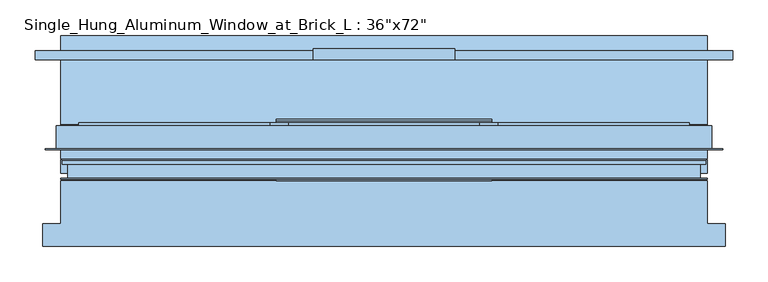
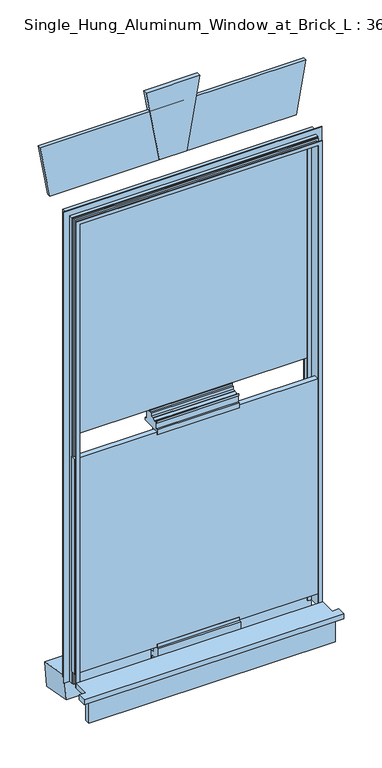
"""IFC4 building model written with IfcOpenShell, lengths in millimetres: window geometry."""

from ifc_helpers import new_model, si_unit, frame, origin, place, context, project, spatial, polyline, outline, extrude, faceted_brep, source, transform, mapped, element, save


def window_32c76565(model_context):
    return source(origin(), model_context, "Body", "SolidModel", [
        extrude(outline(polyline([(1079.5, -17.1661667), (1079.5, -288.1418333), (1491.5841185, -288.1418333), (1491.5841185, -313.5418333), (1079.5, -313.5418333), (1079.5, -584.5175), (1054.1, -584.5175), (1054.1, -313.5418333), (669.0294355, -313.5418333), (669.0294355, -288.1418333), (1054.1, -288.1418333), (1054.1, -17.1661667), (669.0294355, -17.1661667), (669.0294355, 8.2338333), (1054.1, 8.2338333), (1054.1, 279.2095), (1079.5, 279.2095), (1079.5, 8.2338333), (1491.5841185, 8.2338333), (1491.5841185, -17.1661667), (1079.5, -17.1661667)])), frame((0.0, -25.2095, 0.0), z_axis=(0.0, 1.0, 0.0), x_axis=(0.0, 0.0, 1.0)), (0.0, 0.0, 1.0), 6.35),
        extrude(outline(polyline([(304.546, -44.2595), (-609.854, -44.2595), (-609.854, -25.2095), (304.546, -25.2095), (304.546, -44.2595)])), frame((0.0, 0.0, 657.928783), z_axis=(0.0, 0.0, 1.0), x_axis=(1.0, 0.0, 0.0)), (0.0, 0.0, 1.0), 844.5594137),
        extrude(outline(polyline([(0.0, -914.4), (0.0, 0.0), (127.0, 0.0), (127.0, -914.4), (0.0, -914.4)])), frame((304.546, 134.9375, 501.4130908), z_axis=(0.0, 0.17364817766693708, 0.9848077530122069), x_axis=(0.0, -0.9848077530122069, 0.17364817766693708)), (0.0, 0.0, 1.0), 88.9),
        extrude(outline(polyline([(1993.9, -17.1661667), (1993.9, -288.1418333), (2413.0635, -288.1418333), (2413.0635, -313.5418333), (1993.9, -313.5418333), (1993.9, -584.5175), (1968.5, -584.5175), (1968.5, -313.5418333), (1560.9971728, -313.5418333), (1560.9971728, -288.1418333), (1968.5, -288.1418333), (1968.5, -17.1661667), (1560.9971728, -17.1661667), (1560.9971728, 8.2338333), (1968.5, 8.2338333), (1968.5, 279.2095), (1993.9, 279.2095), (1993.9, 8.2338333), (2413.0635, 8.2338333), (2413.0635, -17.1661667), (1993.9, -17.1661667)])), frame((0.0, 20.62734, 0.0), z_axis=(0.0, 1.0, 0.0), x_axis=(0.0, 0.0, 1.0)), (0.0, 0.0, 1.0), 6.35),
        faceted_brep([(-609.854, -134.9375, 609.6), (-609.854, -134.9375, 520.7), (304.546, -134.9375, 520.7), (304.546, -134.9375, 609.6), (304.546, -115.8875, 609.6), (304.546, -115.8875, 520.7), (-609.854, -115.8875, 520.7), (-609.854, -115.8875, 609.6), (-609.854, -115.8875, 628.65), (-635.254, -115.8875, 628.65), (-635.254, -147.6375, 628.65), (329.946, -147.6375, 628.65), (329.946, -115.8875, 628.65), (304.546, -115.8875, 628.65), (304.546, -54.76748, 628.65), (-609.854, -54.76748, 628.65), (-609.854, -54.76748, 609.6), (304.546, -54.76748, 609.6), (329.946, -115.8875, 609.6), (329.946, -147.6375, 609.6), (-635.254, -147.6375, 609.6), (-635.254, -115.8875, 609.6)], [[[0, 1, 2, 3]], [[4, 5, 6, 7]], [[1, 0, 7, 6]], [[2, 1, 6, 5]], [[3, 2, 5, 4]], [[8, 9, 10, 11, 12, 13, 14, 15]], [[7, 16, 17, 4]], [[4, 18, 19, 20, 21, 7, 0, 3]], [[9, 8, 7, 21]], [[10, 9, 21, 20]], [[11, 10, 20, 19]], [[12, 11, 19, 18]], [[13, 12, 18, 4]], [[14, 13, 4, 17]], [[15, 14, 17, 16]], [[8, 15, 16, 7]]]),
        extrude(outline(polyline([(2438.4, -203.454), (2438.4, -101.854), (2717.8, -52.5882416), (2717.8, -252.7197584), (2438.4, -203.454)])), frame((0.0, 115.8875, 0.0), z_axis=(0.0, 1.0, 0.0), x_axis=(0.0, 0.0, 1.0)), (0.0, 0.0, 1.0), 15.875),
        extrude(outline(polyline([(22.2862775, 610.4820753), (20.8892775, 610.4820753), (20.8892775, 619.1131897), (-8.1501428, 624.9501789), (-8.1501428, 617.46384), (-9.7155, 617.46384), (-9.7155, 593.4920067), (-11.1125, 593.4920067), (-11.1125, 609.6), (-54.76748, 609.6), (-54.76748, 656.7840639), (-46.7343204, 656.7840639), (-45.9923583, 668.7754355), (-44.2595, 668.7754355), (-44.2595, 657.928783), (-25.2095, 657.928783), (-25.2095, 669.0294355), (-23.55977, 669.0294355), (-23.55977, 631.7373335), (-21.5449122, 631.7373335), (-21.5449122, 628.1152408), (20.8892775, 620.5121435), (20.8892775, 625.8673363), (22.2862775, 625.8673363), (22.2862775, 610.4820753)])), frame((-305.054, 0.0, 0.0), z_axis=(1.0, 0.0, 0.0), x_axis=(0.0, 1.0, 0.0)), (0.0, 0.0, 1.0), 304.8),
        extrude(outline(polyline([(2438.4, -152.654), (2641.6, -152.654), (2641.6, -645.6836425), (2438.4, -609.854), (2438.4, -152.654)])), frame((0.0, 115.8875, 0.0), z_axis=(0.0, 1.0, 0.0), x_axis=(0.0, 0.0, 1.0)), (0.0, 0.0, 1.0), 12.7),
        extrude(outline(polyline([(2438.4, -152.654), (2438.4, 304.546), (2641.6, 340.3756425), (2641.6, -152.654), (2438.4, -152.654)])), frame((0.0, 115.8875, 0.0), z_axis=(0.0, 1.0, 0.0), x_axis=(0.0, 0.0, 1.0)), (0.0, 0.0, 1.0), 12.7),
        extrude(outline(polyline([(29.1076623, 1516.2580422), (29.1076623, 1513.4337301), (31.6507812, 1513.4337301), (31.6507812, 1504.7977301), (-19.1841368, 1504.7977301), (-20.5729434, 1491.5841185), (-25.2095, 1491.5841185), (-25.2095, 1502.4881967), (-44.2595, 1502.4881967), (-44.2595, 1491.3494954), (-45.9105, 1491.3494954), (-45.9105, 1512.0694378), (-41.0458378, 1512.0694378), (-41.0458378, 1536.2448351), (-42.6968378, 1536.2448351), (-42.6968378, 1544.0615975), (-41.4366109, 1544.0615975), (-41.4366109, 1537.8245971), (-32.3608959, 1537.8245971), (-32.3608959, 1539.168978), (-16.4381161, 1539.168978), (-16.4381161, 1541.1761223), (-7.2478191, 1541.1761223), (-7.2478191, 1553.3441151), (-0.5975908, 1553.3441151), (-0.5975908, 1561.2206916), (1.0521392, 1561.3071503), (1.0521392, 1552.0106151), (20.62734, 1552.0106151), (20.62734, 1560.9971728), (23.7629054, 1560.9971728), (24.5014336, 1546.9052151), (25.5597102, 1546.9052151), (25.5597102, 1544.1477831), (20.1876025, 1544.1477831), (20.1876025, 1514.8307301), (27.7113333, 1514.8307301), (27.7113333, 1516.2580422), (29.1076623, 1516.2580422)])), frame((-305.054, 0.0, 0.0), z_axis=(1.0, 0.0, 0.0), x_axis=(0.0, 1.0, 0.0)), (0.0, 0.0, 1.0), 304.8),
        extrude(outline(polyline([(-584.5175, 20.62734), (279.2095, 20.62734), (279.2095, 1.0521392), (-584.5175, 1.0521392), (-584.5175, 20.62734)])), frame((0.0, 0.0, 1560.9971728), z_axis=(0.0, 0.0, 1.0), x_axis=(1.0, 0.0, 0.0)), (0.0, 0.0, 1.0), 852.0663272),
        faceted_brep([(311.15, 22.27834, 609.6), (311.15, -10.0965052, 609.6), (326.4538763, -10.0965052, 609.6), (326.4538763, -11.1125, 609.6), (304.546, -11.1125, 609.6), (304.546, -24.1541833, 609.6), (302.2613233, -26.43886, 609.6), (302.2613233, -32.02686, 609.6), (294.8938381, -32.02686, 609.6), (294.8938381, -51.7541571, 609.6), (304.546, -51.7541571, 609.6), (304.546, -53.37048, 609.6), (291.0903616, -53.37048, 609.6), (291.0903616, -51.7541571, 609.6), (293.497, -51.7541571, 609.6), (293.497, -3.7635699, 609.6), (279.2095, -3.7635699, 609.6), (279.2095, 1.0521392, 609.6), (293.497, 1.0521392, 609.6), (293.497, 20.62734, 609.6), (279.2095, 20.62734, 609.6), (279.2095, 22.27834, 609.6), (311.15, 22.27834, 2445.004), (311.15, -10.0965052, 2445.004), (-616.458, -10.0965052, 2445.004), (-616.458, -10.0965052, 609.346), (-631.7618763, -10.0965052, 609.346), (-631.7618763, -10.0965052, 2460.3078763), (326.4538763, -10.0965052, 2460.3078763), (326.4538763, -11.1125, 2460.3078763), (-631.7618763, -11.1125, 2460.3078763), (-631.7618763, -11.1125, 609.346), (-609.854, -11.1125, 609.346), (-609.854, -11.1125, 2438.4), (304.546, -11.1125, 2438.4), (304.546, -24.1541833, 2438.4), (302.2613233, -26.43886, 2436.1153233), (302.2613233, -32.02686, 2436.1153233), (-607.5693233, -32.02686, 2436.1153233), (-607.5693233, -32.02686, 609.346), (-600.2018381, -32.02686, 609.346), (-600.2018381, -32.02686, 2428.7478381), (294.8938381, -32.02686, 2428.7478381), (294.8938381, -51.7541571, 2428.7478381), (-600.2018381, -51.7541571, 2428.7478381), (-600.2018381, -51.7541571, 609.346), (-609.854, -51.7541571, 609.346), (-609.854, -51.7541571, 2438.4), (304.546, -51.7541571, 2438.4), (304.546, -53.37048, 2438.4), (-609.854, -53.37048, 2438.4), (-609.854, -53.37048, 609.346), (-596.3983616, -53.37048, 609.346), (-596.3983616, -53.37048, 2424.9443616), (291.0903616, -53.37048, 2424.9443616), (291.0903616, -51.7541571, 2424.9443616), (-596.3983616, -51.7541571, 2424.9443616), (-596.3983616, -51.7541571, 609.346), (-598.805, -51.7541571, 609.346), (-598.805, -51.7541571, 2427.351), (293.497, -51.7541571, 2427.351), (293.497, -3.7635699, 2427.351), (-598.805, -3.7635699, 2427.351), (-598.805, -3.7635699, 609.346), (-584.5175, -3.7635699, 609.346), (-584.5175, -3.7635699, 2413.0635), (279.2095, -3.7635699, 2413.0635), (279.2095, 1.0521392, 2413.0635), (-584.5175, 1.0521392, 2413.0635), (-584.5175, 1.0521392, 609.346), (-598.805, 1.0521392, 609.346), (-598.805, 1.0521392, 2427.351), (293.497, 1.0521392, 2427.351), (293.497, 20.62734, 2427.351), (-598.805, 20.62734, 2427.351), (-598.805, 20.62734, 609.346), (-584.5175, 20.62734, 609.346), (-584.5175, 20.62734, 2413.0635), (279.2095, 20.62734, 2413.0635), (279.2095, 22.27834, 2413.0635), (-584.5175, 22.27834, 2413.0635), (-584.5175, 22.27834, 609.346), (-616.458, 22.27834, 609.346), (-616.458, 22.27834, 2445.004), (-609.854, -24.1541833, 2438.4), (-607.5693233, -26.43886, 2436.1153233), (-607.5693233, -26.43886, 609.346), (-609.854, -24.1541833, 609.346)], [[[0, 1, 2, 3, 4, 5, 6, 7, 8, 9, 10, 11, 12, 13, 14, 15, 16, 17, 18, 19, 20, 21]], [[1, 0, 22, 23]], [[2, 1, 23, 24, 25, 26, 27, 28]], [[3, 2, 28, 29]], [[4, 3, 29, 30, 31, 32, 33, 34]], [[5, 4, 34, 35]], [[6, 5, 35, 36]], [[7, 6, 36, 37]], [[8, 7, 37, 38, 39, 40, 41, 42]], [[9, 8, 42, 43]], [[10, 9, 43, 44, 45, 46, 47, 48]], [[11, 10, 48, 49]], [[12, 11, 49, 50, 51, 52, 53, 54]], [[13, 12, 54, 55]], [[14, 13, 55, 56, 57, 58, 59, 60]], [[15, 14, 60, 61]], [[16, 15, 61, 62, 63, 64, 65, 66]], [[17, 16, 66, 67]], [[18, 17, 67, 68, 69, 70, 71, 72]], [[19, 18, 72, 73]], [[20, 19, 73, 74, 75, 76, 77, 78]], [[21, 20, 78, 79]], [[0, 21, 79, 80, 81, 82, 83, 22]], [[23, 22, 83, 24]], [[29, 28, 27, 30]], [[35, 34, 33, 84]], [[36, 35, 84, 85]], [[37, 36, 85, 38]], [[43, 42, 41, 44]], [[49, 48, 47, 50]], [[55, 54, 53, 56]], [[61, 60, 59, 62]], [[67, 66, 65, 68]], [[73, 72, 71, 74]], [[79, 78, 77, 80]], [[82, 81, 76, 75, 70, 69, 64, 63, 58, 57, 52, 51, 46, 45, 40, 39, 86, 87, 32, 31, 26, 25]], [[24, 83, 82, 25]], [[30, 27, 26, 31]], [[84, 33, 32, 87]], [[85, 84, 87, 86]], [[38, 85, 86, 39]], [[44, 41, 40, 45]], [[50, 47, 46, 51]], [[56, 53, 52, 57]], [[62, 59, 58, 63]], [[68, 65, 64, 69]], [[74, 71, 70, 75]], [[80, 77, 76, 81]]]),
    ])


if __name__ == "__main__":
    model = new_model("IFC4")
    model_context = context("Model", 3, world=origin())
    ifc_project = project(units=[si_unit("LENGTHUNIT", "METRE", prefix="MILLI")], contexts=[model_context])
    site = spatial("IfcSite", under=ifc_project)
    building = spatial("IfcBuilding", under=site)
    placement = place(None, origin())
    window_shape = window_32c76565(model_context)
    element("IfcWindow", 1, ObjectType="Single_Hung_Aluminum_Window_at_Brick_L : 36\"x72\"", at=placement, inside=building, context=model_context, shape_type="MappedRepresentation", body=[
        mapped(window_shape, transform((0.0, 0.0, 0.0), x_axis=(1.0, 0.0, 0.0), y_axis=(0.0, 1.0, 0.0), z_axis=(0.0, 0.0, 1.0))),
    ])
    save(model, "model.ifc")
